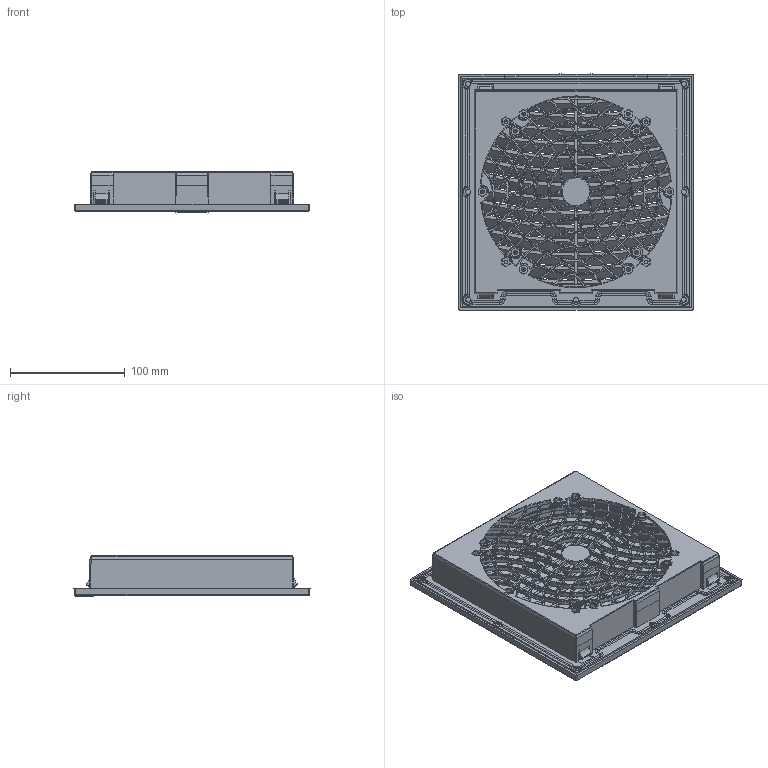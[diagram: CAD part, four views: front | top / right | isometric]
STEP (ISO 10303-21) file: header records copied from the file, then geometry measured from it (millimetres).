
FILE_DESCRIPTION(/* description */ (''),/* implementation_level */ '2;1');
FILE_NAME(/* name */ 'FC-204.stp',/* time_stamp */ '2024-11-14T15:09:44+08:00',/* author */ (''),/* organization */ (''),/* preprocessor_version */ 'ST-DEVELOPER v16.7',/* originating_system */ 'SIEMENS PLM Software NX 12.0',/* authorisation */ '');
FILE_SCHEMA (('AUTOMOTIVE_DESIGN { 1 0 10303 214 3 1 1 1 }'));
Products named in the file (1): Admi0570CD5Bx2ct
Bounding box: 204.51 x 205.46 x 34.97 mm (x, y, z)
Volume: 117097.8 mm3; surface area: 255126.2 mm2
Topology: 1 solids, 2 shells, 2956 faces, 7927 edges, 4885 vertices
Faces by surface type: torus 1101, cylinder 764, plane 737, bspline 185, cone 165, sphere 4
Full cylindrical faces by diameter (mm): 2.5 x28, 3.3 x14, 4.02 x2, 4.522 x2, 11.055 x6
Entity records: 115695 total; most frequent: CARTESIAN_POINT 45046, ORIENTED_EDGE 15492, DIRECTION 14131, EDGE_CURVE 7746, AXIS2_PLACEMENT_3D 5898, VERTEX_POINT 4818, EDGE_LOOP 3326, CIRCLE 3026
